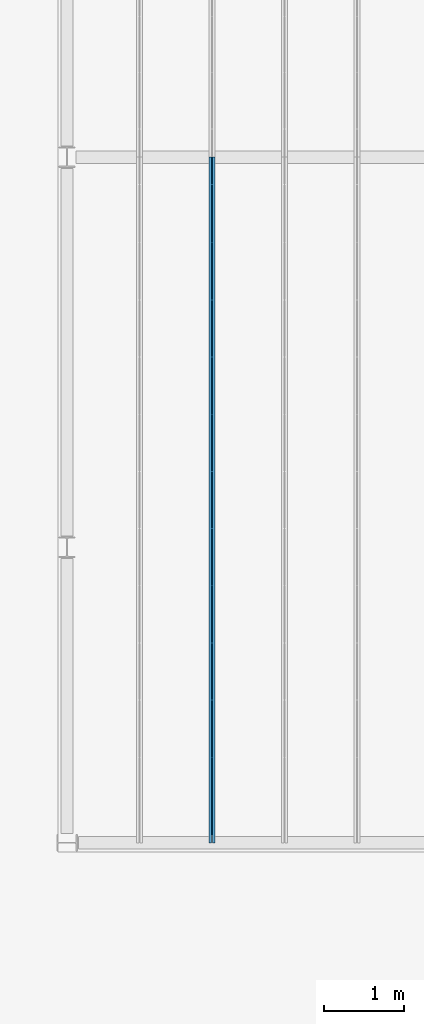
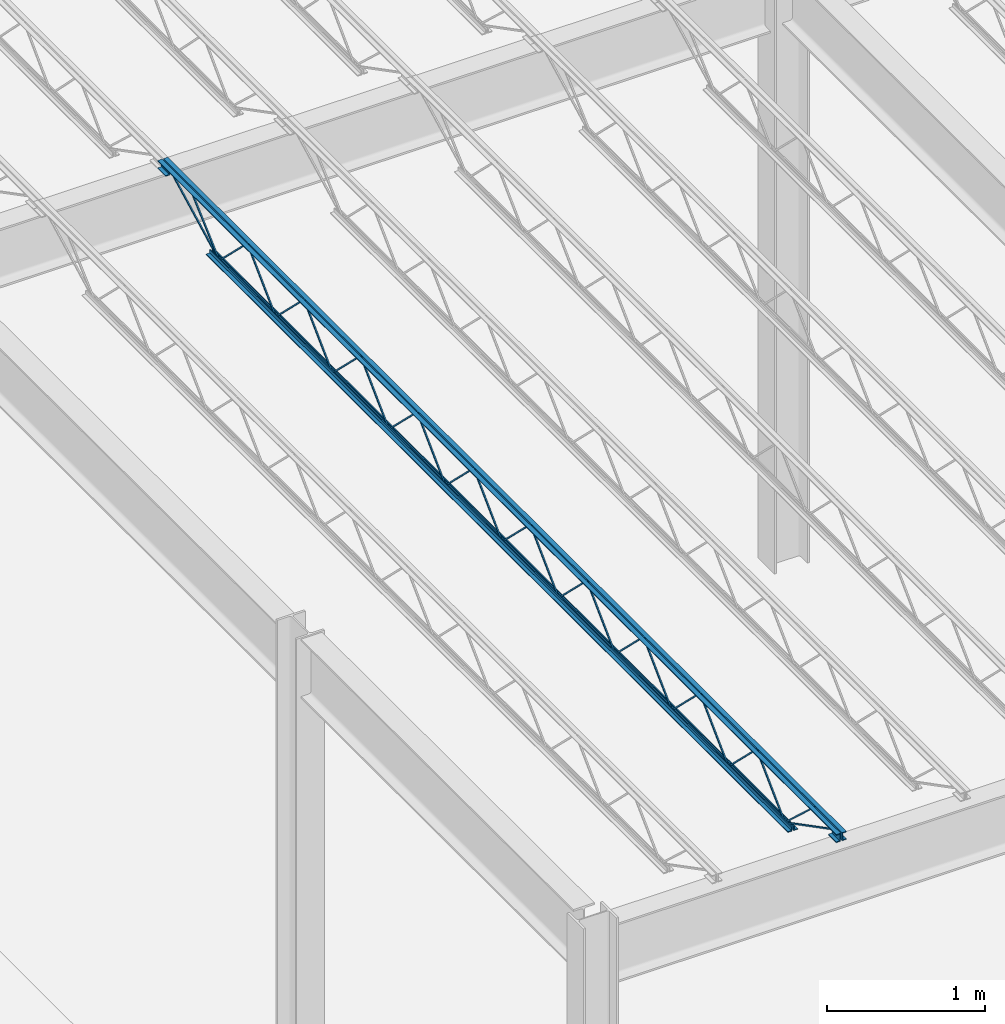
# One storey, part 21 of 119: 1 beam.
"""IFC2X3 building model written with IfcOpenShell, lengths in metres."""

from ifc_helpers import new_model, entity, si_unit, converted_unit, frame, origin, place, context, project, spatial, face_set, surface_model, element, save


model = new_model("IFC2X3")

# Units and contexts
model_context = context("Model", 3, precision=1e-09, world=origin())
plan_context = context("Plan", 3, precision=1e-09, world=origin())
ifc_project = project(units=[si_unit("LENGTHUNIT", "METRE"), si_unit("AREAUNIT", "SQUARE_METRE"), si_unit("VOLUMEUNIT", "CUBIC_METRE"), converted_unit("PLANEANGLEUNIT", "DEGREE", entity("IfcRatioMeasure", 0.01745329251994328), si_unit("PLANEANGLEUNIT", "RADIAN"), dimensions=[0, 0, 0, 0, 0, 0, 0]), si_unit("TIMEUNIT", "SECOND")], contexts=[model_context, plan_context])

# Site, building, storey
site_placement = place(None, origin())
site = spatial("IfcSite", under=ifc_project, at=site_placement, Name="Default", CompositionType="ELEMENT")
building_placement = place(site_placement, origin())
building = spatial("IfcBuilding", under=site, at=building_placement, CompositionType="ELEMENT")
storey_placement = place(building_placement, frame((0.0, 0.0, 4.570000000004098)))
storey = spatial("IfcBuildingStorey", under=building, at=storey_placement, Name="Second Floor", CompositionType="ELEMENT", Elevation=4.570000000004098)

# Beam
beam_placement = place(storey_placement, frame((-45.22532142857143, 10.04000000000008, 4.323999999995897), z_axis=(0.0, 0.0, 1.0), x_axis=(-1.0, 0.0, 0.0)))
element("IfcBeam", 1, at=beam_placement, inside=storey, Name="M_K-Series Bar Joist-Rod Web:14K1:14K1", ObjectType="M_K-Series Bar Joist-Rod Web:14K1", context=model_context, shape_type="SurfaceModel", body=[
    surface_model("IfcFaceBasedSurfaceModel", [(-0.03199999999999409, -2.141200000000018, 0.01110000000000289), (-0.04150000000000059, -2.141200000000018, 0.01110000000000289), (-0.04150000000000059, -2.141200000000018, 0.001600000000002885), (-0.03199999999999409, -2.141200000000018, 0.001600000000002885), (-0.04149999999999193, -2.13996192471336, 0.01110000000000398), (-0.03199999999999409, -2.13996192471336, 0.01110000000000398), (-0.0415000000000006, -2.136088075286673, 0.001600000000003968), (-0.04150000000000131, -1.785138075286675, 0.3449000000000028), (-0.04150000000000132, -1.782661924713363, 0.3449000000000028), (-0.04150000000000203, -1.431711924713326, 0.001600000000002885), (-0.04150000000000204, -1.42660000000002, 0.001600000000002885), (-0.04150000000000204, -1.426600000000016, 0.01110000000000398), (-0.04150000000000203, -1.427838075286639, 0.01110000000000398), (-0.04150000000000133, -1.778788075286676, 0.3544000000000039), (-0.0415000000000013, -1.789011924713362, 0.3544000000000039), (-0.03200000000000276, -2.136088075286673, 0.001600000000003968), (-0.0319999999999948, -1.785138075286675, 0.3449000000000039), (-0.03199999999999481, -1.782661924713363, 0.3449000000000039), (-0.03199999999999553, -1.431711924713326, 0.001600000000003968), (-0.03199999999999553, -1.426600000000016, 0.001600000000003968), (-0.03199999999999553, -1.42660000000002, 0.01110000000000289), (-0.03199999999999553, -1.427838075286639, 0.01110000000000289), (-0.03199999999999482, -1.778788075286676, 0.3544000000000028), (-0.0319999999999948, -1.789011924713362, 0.3544000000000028), (-0.03200000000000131, -2.855800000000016, 0.01110000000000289), (-0.04150000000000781, -2.855800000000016, 0.01110000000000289), (-0.04150000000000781, -2.855800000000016, 0.001600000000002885), (-0.03200000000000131, -2.855800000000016, 0.001600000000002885), (-0.04149999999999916, -2.854561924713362, 0.01110000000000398), (-0.03200000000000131, -2.854561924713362, 0.01110000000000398), (-0.04150000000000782, -2.850688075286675, 0.001600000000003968), (-0.04150000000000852, -2.499738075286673, 0.3449000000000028), (-0.04150000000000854, -2.497261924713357, 0.3449000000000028), (-0.04150000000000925, -2.14631192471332, 0.001600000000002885), (-0.04150000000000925, -2.141200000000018, 0.01110000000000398), (-0.04150000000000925, -2.142438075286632, 0.01110000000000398), (-0.04150000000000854, -2.49338807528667, 0.3544000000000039), (-0.04150000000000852, -2.50361192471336, 0.3544000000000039), (-0.03200000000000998, -2.850688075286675, 0.001600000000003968), (-0.03200000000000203, -2.499738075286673, 0.3449000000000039), (-0.03200000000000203, -2.497261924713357, 0.3449000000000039), (-0.03200000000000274, -2.14631192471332, 0.001600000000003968), (-0.03200000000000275, -2.141200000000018, 0.001600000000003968), (-0.03199999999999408, -2.142438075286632, 0.01110000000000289), (-0.03200000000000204, -2.49338807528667, 0.3544000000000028), (-0.03200000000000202, -2.50361192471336, 0.3544000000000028), (-0.03199999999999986, -3.570400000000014, 0.01110000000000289), (-0.04150000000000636, -3.570400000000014, 0.01110000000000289), (-0.04150000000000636, -3.570400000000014, 0.001600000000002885), (-0.03199999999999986, -3.570400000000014, 0.001600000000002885), (-0.04149999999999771, -3.569161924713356, 0.01110000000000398), (-0.03199999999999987, -3.569161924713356, 0.01110000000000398), (-0.04150000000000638, -3.565288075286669, 0.001600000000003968), (-0.04150000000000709, -3.21433807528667, 0.3449000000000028), (-0.04150000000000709, -3.211861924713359, 0.3449000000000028), (-0.0415000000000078, -2.860911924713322, 0.001600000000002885), (-0.04150000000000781, -2.855800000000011, 0.001600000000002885), (-0.04150000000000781, -2.855800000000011, 0.01110000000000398), (-0.04150000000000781, -2.857038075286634, 0.01110000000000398), (-0.04150000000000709, -3.207988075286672, 0.3544000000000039), (-0.04150000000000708, -3.218211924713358, 0.3544000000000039), (-0.03200000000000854, -3.565288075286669, 0.001600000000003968), (-0.03200000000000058, -3.21433807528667, 0.3449000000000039), (-0.03200000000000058, -3.211861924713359, 0.3449000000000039), (-0.0320000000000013, -2.860911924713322, 0.001600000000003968), (-0.03200000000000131, -2.855800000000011, 0.001600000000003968), (-0.03200000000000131, -2.855800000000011, 0.01110000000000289), (-0.03200000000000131, -2.857038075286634, 0.01110000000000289), (-0.03200000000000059, -3.207988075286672, 0.3544000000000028), (-0.03200000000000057, -3.218211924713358, 0.3544000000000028), (-0.03199999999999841, -4.285000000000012, 0.01110000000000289), (-0.04150000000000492, -4.285000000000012, 0.01110000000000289), (-0.04150000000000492, -4.285000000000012, 0.001600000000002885), (-0.03199999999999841, -4.285000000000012, 0.001600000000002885), (-0.04149999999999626, -4.283761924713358, 0.01110000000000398), (-0.03199999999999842, -4.283761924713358, 0.01110000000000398), (-0.04150000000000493, -4.279888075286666, 0.001600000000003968), (-0.04150000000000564, -3.928938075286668, 0.3449000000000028), (-0.04150000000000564, -3.926461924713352, 0.3449000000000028), (-0.04150000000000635, -3.575511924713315, 0.001600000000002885), (-0.04150000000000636, -3.570400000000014, 0.01110000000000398), (-0.04150000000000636, -3.571638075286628, 0.01110000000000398), (-0.04150000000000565, -3.922588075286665, 0.3544000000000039), (-0.04150000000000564, -3.932811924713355, 0.3544000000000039), (-0.03200000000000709, -4.279888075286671, 0.001600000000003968), (-0.03199999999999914, -3.928938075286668, 0.3449000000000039), (-0.03199999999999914, -3.926461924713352, 0.3449000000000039), (-0.03199999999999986, -3.575511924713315, 0.001600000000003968), (-0.03199999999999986, -3.570400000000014, 0.001600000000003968), (-0.03199999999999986, -3.571638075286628, 0.01110000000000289), (-0.03199999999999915, -3.922588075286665, 0.3544000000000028), (-0.03199999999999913, -3.932811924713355, 0.3544000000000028), (-0.03199999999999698, -4.999600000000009, 0.01110000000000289), (-0.04150000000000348, -4.999600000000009, 0.01110000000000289), (-0.04150000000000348, -4.999600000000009, 0.001600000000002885), (-0.03199999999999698, -4.999600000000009, 0.001600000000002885), (-0.04149999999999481, -4.998361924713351, 0.01110000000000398), (-0.03199999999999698, -4.998361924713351, 0.01110000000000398), (-0.04150000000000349, -4.994488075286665, 0.001600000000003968), (-0.04150000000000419, -4.643538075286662, 0.3449000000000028), (-0.0415000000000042, -4.641061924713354, 0.3449000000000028), (-0.04150000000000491, -4.290111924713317, 0.001600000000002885), (-0.04150000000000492, -4.285000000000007, 0.001600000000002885), (-0.04150000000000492, -4.285000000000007, 0.01110000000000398), (-0.04150000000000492, -4.28623807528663, 0.01110000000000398), (-0.04150000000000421, -4.637188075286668, 0.3544000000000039), (-0.04150000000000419, -4.647411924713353, 0.3544000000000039), (-0.03200000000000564, -4.994488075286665, 0.001600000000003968), (-0.03199999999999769, -4.643538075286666, 0.3449000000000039), (-0.0319999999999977, -4.641061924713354, 0.3449000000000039), (-0.03199999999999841, -4.290111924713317, 0.001600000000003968), (-0.03199999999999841, -4.285000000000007, 0.001600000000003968), (-0.03199999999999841, -4.285000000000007, 0.01110000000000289), (-0.03199999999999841, -4.28623807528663, 0.01110000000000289), (-0.0319999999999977, -4.637188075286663, 0.3544000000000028), (-0.03199999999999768, -4.647411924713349, 0.3544000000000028), (-0.03199999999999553, -5.714200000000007, 0.01110000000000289), (-0.04150000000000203, -5.714200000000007, 0.01110000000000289), (-0.04150000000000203, -5.714200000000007, 0.001600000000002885), (-0.03199999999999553, -5.714200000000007, 0.001600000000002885), (-0.04149999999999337, -5.712961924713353, 0.01110000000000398), (-0.03199999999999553, -5.712961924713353, 0.01110000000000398), (-0.04150000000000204, -5.709088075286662, 0.001600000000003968), (-0.04150000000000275, -5.358138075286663, 0.3449000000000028), (-0.04150000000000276, -5.355661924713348, 0.3449000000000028), (-0.04150000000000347, -5.004711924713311, 0.001600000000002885), (-0.04150000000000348, -4.999600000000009, 0.01110000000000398), (-0.04150000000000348, -5.000838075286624, 0.01110000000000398), (-0.04150000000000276, -5.351788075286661, 0.3544000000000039), (-0.04150000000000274, -5.362011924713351, 0.3544000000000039), (-0.0320000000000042, -5.709088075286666, 0.001600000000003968), (-0.03199999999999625, -5.358138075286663, 0.3449000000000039), (-0.03199999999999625, -5.355661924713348, 0.3449000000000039), (-0.03199999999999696, -5.004711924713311, 0.001600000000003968), (-0.03199999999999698, -4.999600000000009, 0.001600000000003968), (-0.03199999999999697, -5.000838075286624, 0.01110000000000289), (-0.03199999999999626, -5.351788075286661, 0.3544000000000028), (-0.03199999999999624, -5.362011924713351, 0.3544000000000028), (-0.03200000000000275, -6.428800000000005, 0.01110000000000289), (-0.04150000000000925, -6.428800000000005, 0.01110000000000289), (-0.04150000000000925, -6.428800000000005, 0.001600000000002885), (-0.03200000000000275, -6.428800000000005, 0.001600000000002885), (-0.04150000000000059, -6.427561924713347, 0.01110000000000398), (-0.03200000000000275, -6.427561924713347, 0.01110000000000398), (-0.0415000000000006, -6.42368807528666, 0.001600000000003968), (-0.0415000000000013, -6.072738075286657, 0.3449000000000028), (-0.04150000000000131, -6.070261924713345, 0.3449000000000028), (-0.04150000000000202, -5.719311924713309, 0.001600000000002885), (-0.04150000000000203, -5.714200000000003, 0.001600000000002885), (-0.0415000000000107, -5.714200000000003, 0.01110000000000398), (-0.0415000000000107, -5.715438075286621, 0.01110000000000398), (-0.04150000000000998, -6.066388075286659, 0.3544000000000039), (-0.04150000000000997, -6.076611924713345, 0.3544000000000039), (-0.03200000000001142, -6.42368807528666, 0.001600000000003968), (-0.03200000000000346, -6.072738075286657, 0.3449000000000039), (-0.03200000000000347, -6.070261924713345, 0.3449000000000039), (-0.03200000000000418, -5.719311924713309, 0.001600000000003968), (-0.03200000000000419, -5.714200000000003, 0.001600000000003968), (-0.03199999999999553, -5.714200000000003, 0.01110000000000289), (-0.03199999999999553, -5.715438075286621, 0.01110000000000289), (-0.03199999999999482, -6.066388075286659, 0.3544000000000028), (-0.0319999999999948, -6.076611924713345, 0.3544000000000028), (-0.0320000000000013, -7.143399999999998, 0.01110000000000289), (-0.04150000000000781, -7.143399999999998, 0.01110000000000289), (-0.04150000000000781, -7.143399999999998, 0.001600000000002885), (-0.0320000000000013, -7.143399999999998, 0.001600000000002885), (-0.04149999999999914, -7.142161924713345, 0.01110000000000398), (-0.03200000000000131, -7.142161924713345, 0.01110000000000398), (-0.04150000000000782, -7.138288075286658, 0.001600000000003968), (-0.04150000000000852, -6.78733807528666, 0.3449000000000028), (-0.04150000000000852, -6.784861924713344, 0.3449000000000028), (-0.04150000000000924, -6.433911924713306, 0.001600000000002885), (-0.04150000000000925, -6.428800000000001, 0.001600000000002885), (-0.04150000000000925, -6.428800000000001, 0.01110000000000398), (-0.04150000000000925, -6.430038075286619, 0.01110000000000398), (-0.04150000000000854, -6.780988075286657, 0.3544000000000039), (-0.04150000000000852, -6.791211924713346, 0.3544000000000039), (-0.03200000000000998, -7.138288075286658, 0.001600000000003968), (-0.03200000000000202, -6.78733807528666, 0.3449000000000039), (-0.03200000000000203, -6.784861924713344, 0.3449000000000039), (-0.03200000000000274, -6.433911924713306, 0.001600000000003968), (-0.03200000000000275, -6.428800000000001, 0.001600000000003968), (-0.03200000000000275, -6.428800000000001, 0.01110000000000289), (-0.03200000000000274, -6.430038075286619, 0.01110000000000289), (-0.03200000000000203, -6.780988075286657, 0.3544000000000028), (-0.03200000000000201, -6.791211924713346, 0.3544000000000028), (-0.03199999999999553, -1.42660000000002, 0.01109999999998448), (-0.04150000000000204, -1.42660000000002, 0.01109999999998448), (-0.04150000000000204, -1.42660000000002, 0.001599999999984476), (-0.03199999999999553, -1.42660000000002, 0.001599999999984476), (-0.04149999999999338, -1.425361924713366, 0.01109999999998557), (-0.03199999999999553, -1.425361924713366, 0.01109999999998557), (-0.04149999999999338, -1.421488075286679, 0.001599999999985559), (-0.0414999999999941, -1.070538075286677, 0.3448999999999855), (-0.0414999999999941, -1.068061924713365, 0.3448999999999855), (-0.04149999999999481, -0.7171119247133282, 0.001599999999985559), (-0.04150000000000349, -0.7120000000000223, 0.001599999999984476), (-0.04149999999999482, -0.7120000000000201, 0.01109999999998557), (-0.04149999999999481, -0.713238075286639, 0.01109999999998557), (-0.0414999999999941, -1.064188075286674, 0.3543999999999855), (-0.04149999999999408, -1.074411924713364, 0.3543999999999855), (-0.03199999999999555, -1.421488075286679, 0.001599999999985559), (-0.03199999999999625, -1.070538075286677, 0.3448999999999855), (-0.03199999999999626, -1.068061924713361, 0.3448999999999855), (-0.03199999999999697, -0.7171119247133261, 0.001599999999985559), (-0.03199999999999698, -0.7120000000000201, 0.001599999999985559), (-0.03199999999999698, -0.7120000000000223, 0.01109999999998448), (-0.03199999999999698, -0.7132380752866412, 0.01109999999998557), (-0.03199999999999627, -1.064188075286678, 0.3543999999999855), (-0.03199999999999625, -1.074411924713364, 0.3543999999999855), (-0.03199999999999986, -7.858000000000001, 0.01110000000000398), (-0.04150000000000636, -7.858000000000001, 0.01110000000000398), (-0.04150000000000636, -7.858000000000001, 0.001600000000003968), (-0.03199999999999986, -7.858000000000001, 0.001600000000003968), (-0.0414999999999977, -7.856761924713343, 0.01110000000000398), (-0.03199999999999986, -7.856761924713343, 0.01110000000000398), (-0.04150000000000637, -7.852888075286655, 0.001600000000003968), (-0.04150000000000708, -7.501938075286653, 0.3449000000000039), (-0.04150000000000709, -7.499461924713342, 0.3449000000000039), (-0.04150000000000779, -7.148511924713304, 0.001600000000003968), (-0.04150000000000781, -7.143399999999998, 0.001600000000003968), (-0.04150000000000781, -7.143399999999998, 0.01110000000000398), (-0.0415000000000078, -7.144638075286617, 0.01110000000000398), (-0.04150000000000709, -7.495588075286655, 0.3544000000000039), (-0.04150000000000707, -7.50581192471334, 0.3544000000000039), (-0.03200000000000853, -7.852888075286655, 0.001600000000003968), (-0.03200000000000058, -7.501938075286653, 0.3449000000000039), (-0.03200000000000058, -7.499461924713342, 0.3449000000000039), (-0.03200000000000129, -7.148511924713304, 0.001600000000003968), (-0.0320000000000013, -7.143399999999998, 0.001600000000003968), (-0.0320000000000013, -7.143399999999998, 0.01110000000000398), (-0.0320000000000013, -7.144638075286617, 0.01110000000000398), (-0.03200000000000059, -7.495588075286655, 0.3544000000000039), (-0.03200000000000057, -7.50581192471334, 0.3544000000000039), (-0.04150000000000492, 0.0, 0.3559999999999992), (-0.07350000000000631, 0.0, 0.3559999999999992), (-0.07350000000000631, 0.0, 0.3494999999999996), (-0.04800000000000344, 0.0, 0.3494999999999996), (-0.04800000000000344, 0.0, 0.3239999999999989), (-0.04150000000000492, 0.0, 0.3239999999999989), (-0.03200000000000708, 0.0, 0.3559999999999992), (-0.03200000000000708, 0.0, 0.3239999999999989), (-0.02550000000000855, 0.0, 0.3239999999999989), (-0.02550000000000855, 0.0, 0.3494999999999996), (0.0, 0.0, 0.3494999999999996), (0.0, 0.0, 0.3559999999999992), (-0.04150000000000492, -8.570000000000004, 0.3559999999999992), (-0.07350000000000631, -8.570000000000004, 0.3559999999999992), (-0.07350000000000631, -8.570000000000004, 0.3494999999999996), (-0.04800000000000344, -8.570000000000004, 0.3494999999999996), (-0.04800000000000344, -8.570000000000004, 0.3239999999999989), (-0.04150000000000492, -8.570000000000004, 0.3239999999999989), (-0.03200000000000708, -8.570000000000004, 0.3559999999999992), (-0.03200000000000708, -8.570000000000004, 0.3239999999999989), (-0.02550000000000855, -8.570000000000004, 0.3239999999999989), (-0.02550000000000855, -8.570000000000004, 0.3494999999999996), (0.0, -8.570000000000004, 0.3494999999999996), (0.0, -8.570000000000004, 0.3559999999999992), (-0.03199999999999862, -8.470000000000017, 0.2924999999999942), (0.0, -8.470000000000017, 0.2924999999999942), (0.0, -8.470000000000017, 0.2989999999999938), (-0.0255000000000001, -8.470000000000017, 0.2989999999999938), (-0.0255000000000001, -8.470000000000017, 0.3239999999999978), (-0.03199999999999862, -8.470000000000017, 0.3239999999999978), (-0.07349999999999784, -8.470000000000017, 0.2924999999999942), (-0.04149999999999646, -8.470000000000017, 0.2924999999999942), (-0.04149999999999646, -8.470000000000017, 0.3239999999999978), (-0.04799999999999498, -8.470000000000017, 0.3239999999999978), (-0.04799999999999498, -8.470000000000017, 0.2989999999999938), (-0.07349999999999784, -8.470000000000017, 0.2989999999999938), (-0.03199999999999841, -8.570000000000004, 0.2924999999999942), (0.0, -8.570000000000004, 0.2924999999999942), (0.0, -8.570000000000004, 0.2989999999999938), (-0.02549999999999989, -8.570000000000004, 0.2989999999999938), (-0.02549999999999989, -8.570000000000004, 0.3239999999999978), (-0.03199999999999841, -8.570000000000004, 0.3239999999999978), (-0.07349999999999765, -8.570000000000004, 0.2924999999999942), (-0.04149999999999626, -8.570000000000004, 0.2924999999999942), (-0.04149999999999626, -8.570000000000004, 0.3239999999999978), (-0.04799999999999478, -8.570000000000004, 0.3239999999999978), (-0.04799999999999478, -8.570000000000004, 0.2989999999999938), (-0.07349999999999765, -8.570000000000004, 0.2989999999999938), (-0.04149999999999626, 0.0, 0.2924999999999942), (-0.04149999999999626, 0.0, 0.3239999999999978), (-0.04799999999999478, 0.0, 0.3239999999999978), (-0.04799999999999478, 0.0, 0.2989999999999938), (-0.07349999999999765, 0.0, 0.2989999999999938), (-0.07349999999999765, 0.0, 0.2924999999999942), (-0.03199999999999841, 0.0, 0.2924999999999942), (0.0, 0.0, 0.2924999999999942), (0.0, 0.0, 0.2989999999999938), (-0.02549999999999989, 0.0, 0.2989999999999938), (-0.02549999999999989, 0.0, 0.3239999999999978), (-0.03199999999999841, 0.0, 0.3239999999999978), (-0.04149999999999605, -0.1000000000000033, 0.2924999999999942), (-0.04149999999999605, -0.1000000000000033, 0.3239999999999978), (-0.04799999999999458, -0.1000000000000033, 0.3239999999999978), (-0.04799999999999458, -0.1000000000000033, 0.2989999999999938), (-0.07349999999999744, -0.1000000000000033, 0.2989999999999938), (-0.07349999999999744, -0.1000000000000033, 0.2924999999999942), (-0.03199999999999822, -0.1000000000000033, 0.2924999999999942), (0.0, -0.1000000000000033, 0.2924999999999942), (0.0, -0.1000000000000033, 0.2989999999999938), (-0.02549999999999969, -0.1000000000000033, 0.2989999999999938), (-0.02549999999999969, -0.1000000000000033, 0.3239999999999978), (-0.03199999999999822, -0.1000000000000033, 0.3239999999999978), (-0.04150000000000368, -0.6119999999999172, 0.0), (-0.04150000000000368, -0.6119999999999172, 0.03199999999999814), (-0.0480000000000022, -0.6119999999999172, 0.03199999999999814), (-0.0480000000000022, -0.6119999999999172, 0.006499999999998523), (-0.07350000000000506, -0.6119999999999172, 0.006499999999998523), (-0.07350000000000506, -0.6119999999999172, 0.0), (-0.03200000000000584, -0.6119999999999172, 0.0), (0.0, -0.6119999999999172, 0.0), (0.0, -0.6119999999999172, 0.006499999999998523), (-0.02550000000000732, -0.6119999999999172, 0.006499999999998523), (-0.02550000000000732, -0.6119999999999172, 0.03199999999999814), (-0.03200000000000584, -0.6119999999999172, 0.03199999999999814), (-0.04150000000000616, -7.957999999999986, 0.0), (-0.04150000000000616, -7.957999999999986, 0.03199999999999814), (-0.04800000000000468, -7.957999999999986, 0.03199999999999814), (-0.04800000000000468, -7.957999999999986, 0.006499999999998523), (-0.07350000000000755, -7.957999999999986, 0.006499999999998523), (-0.07350000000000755, -7.957999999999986, 0.0), (-0.03200000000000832, -7.957999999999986, 0.0), (0.0, -7.957999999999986, 0.0), (0.0, -7.957999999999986, 0.006499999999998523), (-0.0255000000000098, -7.957999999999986, 0.006499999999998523), (-0.0255000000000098, -7.957999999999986, 0.03199999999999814), (-0.03200000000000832, -7.957999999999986, 0.03199999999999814), (-0.03199999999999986, -7.855811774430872, 0.01056594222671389), (-0.04150000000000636, -7.855811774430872, 0.01056594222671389), (-0.04150000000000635, -7.86018822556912, 0.002134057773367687), (-0.03199999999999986, -7.86018822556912, 0.00213405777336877), (-0.03199999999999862, -8.468840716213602, 0.3287499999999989), (-0.03199999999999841, -8.570000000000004, 0.3287499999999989), (-0.03199999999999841, -8.569999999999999, 0.3192499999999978), (-0.03199999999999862, -8.471159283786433, 0.3192499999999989), (-0.04149999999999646, -8.471159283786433, 0.3192499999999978), (-0.04150000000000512, -8.468840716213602, 0.3287499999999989), (-0.04150000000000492, -8.569999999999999, 0.3287499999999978), (-0.04150000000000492, -8.570000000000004, 0.3192499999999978), (-0.03199999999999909, -8.235257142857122, 0.3417000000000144), (-0.0415000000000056, -8.235257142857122, 0.3417000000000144), (-0.0415000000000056, -8.235257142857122, 0.3322000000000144), (-0.03199999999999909, -8.235257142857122, 0.3322000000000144), (-0.04149999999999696, -8.220724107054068, 0.3417000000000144), (-0.03199999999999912, -8.220724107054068, 0.3417000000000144), (-0.04150000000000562, -8.224390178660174, 0.3322000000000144), (-0.04150000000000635, -7.861190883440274, 0.002831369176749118), (-0.04150000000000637, -7.854809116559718, 0.009868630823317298), (-0.03200000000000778, -8.224390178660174, 0.3322000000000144), (-0.03199999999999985, -7.861190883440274, 0.002831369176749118), (-0.03199999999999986, -7.854809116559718, 0.009868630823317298), (-0.03199999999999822, -0.0978117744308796, 0.3197840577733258), (-0.03199999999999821, -0.1021882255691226, 0.328215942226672), (-0.04150000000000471, -0.1021882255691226, 0.328215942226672), (-0.04150000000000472, -0.0978117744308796, 0.3197840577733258), (-0.03199999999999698, -0.7098117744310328, 0.002134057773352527), (-0.03199999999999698, -0.7141882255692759, 0.01056594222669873), (-0.04150000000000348, -0.7141882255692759, 0.01056594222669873), (-0.04150000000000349, -0.7098117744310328, 0.002134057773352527), (-0.03199999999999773, -0.3369634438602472, 0.3461600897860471), (-0.03199999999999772, -0.343407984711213, 0.3531399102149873), (-0.04150000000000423, -0.343407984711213, 0.3531399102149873), (-0.04150000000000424, -0.3369634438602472, 0.3461600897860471), (-0.03199999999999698, -0.7087777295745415, 0.00286008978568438), (-0.03199999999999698, -0.7152222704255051, 0.009839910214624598), (-0.04150000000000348, -0.7152222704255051, 0.009839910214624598), (-0.04150000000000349, -0.7087777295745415, 0.00286008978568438)], [face_set([[[0, 1, 2, 3]], [[1, 4, 5, 0]], [[2, 6, 7, 8, 9, 10, 11, 12, 13, 14, 4, 1]], [[3, 2, 6, 15]], [[0, 3, 15, 16, 17, 18, 19, 20, 21, 22, 23, 5]], [[4, 5, 23, 14]], [[15, 16, 7, 6]], [[14, 13, 22, 23]], [[16, 7, 8, 17]], [[13, 12, 21, 22]], [[17, 8, 9, 18]], [[20, 11, 10, 19]], [[12, 11, 20, 21]], [[18, 9, 10, 19]]]), face_set([[[24, 25, 26, 27]], [[25, 28, 29, 24]], [[26, 30, 31, 32, 33, 2, 34, 35, 36, 37, 28, 25]], [[27, 26, 30, 38]], [[24, 27, 38, 39, 40, 41, 42, 0, 43, 44, 45, 29]], [[28, 29, 45, 37]], [[38, 39, 31, 30]], [[37, 36, 44, 45]], [[39, 31, 32, 40]], [[36, 35, 43, 44]], [[40, 32, 33, 41]], [[0, 34, 2, 42]], [[35, 34, 0, 43]], [[41, 33, 2, 42]]]), face_set([[[46, 47, 48, 49]], [[47, 50, 51, 46]], [[48, 52, 53, 54, 55, 56, 57, 58, 59, 60, 50, 47]], [[49, 48, 52, 61]], [[46, 49, 61, 62, 63, 64, 65, 66, 67, 68, 69, 51]], [[50, 51, 69, 60]], [[61, 62, 53, 52]], [[60, 59, 68, 69]], [[62, 53, 54, 63]], [[59, 58, 67, 68]], [[63, 54, 55, 64]], [[66, 57, 56, 65]], [[58, 57, 66, 67]], [[64, 55, 56, 65]]]), face_set([[[70, 71, 72, 73]], [[71, 74, 75, 70]], [[72, 76, 77, 78, 79, 48, 80, 81, 82, 83, 74, 71]], [[73, 72, 76, 84]], [[70, 73, 84, 85, 86, 87, 88, 46, 89, 90, 91, 75]], [[74, 75, 91, 83]], [[84, 85, 77, 76]], [[83, 82, 90, 91]], [[85, 77, 78, 86]], [[82, 81, 89, 90]], [[86, 78, 79, 87]], [[46, 80, 48, 88]], [[81, 80, 46, 89]], [[87, 79, 48, 88]]]), face_set([[[92, 93, 94, 95]], [[93, 96, 97, 92]], [[94, 98, 99, 100, 101, 102, 103, 104, 105, 106, 96, 93]], [[95, 94, 98, 107]], [[92, 95, 107, 108, 109, 110, 111, 112, 113, 114, 115, 97]], [[96, 97, 115, 106]], [[107, 108, 99, 98]], [[106, 105, 114, 115]], [[108, 99, 100, 109]], [[105, 104, 113, 114]], [[109, 100, 101, 110]], [[112, 103, 102, 111]], [[104, 103, 112, 113]], [[110, 101, 102, 111]]]), face_set([[[116, 117, 118, 119]], [[117, 120, 121, 116]], [[118, 122, 123, 124, 125, 94, 126, 127, 128, 129, 120, 117]], [[119, 118, 122, 130]], [[116, 119, 130, 131, 132, 133, 134, 92, 135, 136, 137, 121]], [[120, 121, 137, 129]], [[130, 131, 123, 122]], [[129, 128, 136, 137]], [[131, 123, 124, 132]], [[128, 127, 135, 136]], [[132, 124, 125, 133]], [[92, 126, 94, 134]], [[127, 126, 92, 135]], [[133, 125, 94, 134]]]), face_set([[[138, 139, 140, 141]], [[139, 142, 143, 138]], [[140, 144, 145, 146, 147, 148, 149, 150, 151, 152, 142, 139]], [[141, 140, 144, 153]], [[138, 141, 153, 154, 155, 156, 157, 158, 159, 160, 161, 143]], [[142, 143, 161, 152]], [[153, 154, 145, 144]], [[152, 151, 160, 161]], [[154, 145, 146, 155]], [[151, 150, 159, 160]], [[155, 146, 147, 156]], [[158, 149, 148, 157]], [[150, 149, 158, 159]], [[156, 147, 148, 157]]]), face_set([[[162, 163, 164, 165]], [[163, 166, 167, 162]], [[164, 168, 169, 170, 171, 172, 173, 174, 175, 176, 166, 163]], [[165, 164, 168, 177]], [[162, 165, 177, 178, 179, 180, 181, 182, 183, 184, 185, 167]], [[166, 167, 185, 176]], [[177, 178, 169, 168]], [[176, 175, 184, 185]], [[178, 169, 170, 179]], [[175, 174, 183, 184]], [[179, 170, 171, 180]], [[182, 173, 172, 181]], [[174, 173, 182, 183]], [[180, 171, 172, 181]]]), face_set([[[186, 187, 188, 189]], [[187, 190, 191, 186]], [[188, 192, 193, 194, 195, 196, 197, 198, 199, 200, 190, 187]], [[189, 188, 192, 201]], [[186, 189, 201, 202, 203, 204, 205, 206, 207, 208, 209, 191]], [[190, 191, 209, 200]], [[201, 202, 193, 192]], [[200, 199, 208, 209]], [[202, 193, 194, 203]], [[199, 198, 207, 208]], [[203, 194, 195, 204]], [[206, 197, 196, 205]], [[198, 197, 206, 207]], [[204, 195, 196, 205]]]), face_set([[[210, 211, 212, 213]], [[211, 214, 215, 210]], [[212, 216, 217, 218, 219, 220, 221, 222, 223, 224, 214, 211]], [[213, 212, 216, 225]], [[210, 213, 225, 226, 227, 228, 229, 230, 231, 232, 233, 215]], [[214, 215, 233, 224]], [[225, 226, 217, 216]], [[224, 223, 232, 233]], [[226, 217, 218, 227]], [[223, 222, 231, 232]], [[227, 218, 219, 228]], [[230, 221, 220, 229]], [[222, 221, 230, 231]], [[228, 219, 220, 229]]]), face_set([[[234, 235, 236, 237, 238, 239]], [[240, 241, 242, 243, 244, 245]], [[246, 247, 248, 249, 250, 251]], [[252, 253, 254, 255, 256, 257]], [[239, 234, 246, 251]], [[238, 239, 251, 250]], [[237, 249, 250, 238]], [[236, 237, 249, 248]], [[235, 247, 248, 236]], [[234, 246, 247, 235]], [[245, 257, 252, 240]], [[244, 245, 257, 256]], [[243, 244, 256, 255]], [[242, 243, 255, 254]], [[241, 242, 254, 253]], [[240, 252, 253, 241]]]), face_set([[[258, 259, 260, 261, 262, 263]], [[264, 265, 266, 267, 268, 269]], [[270, 271, 272, 273, 274, 275]], [[276, 277, 278, 279, 280, 281]], [[263, 275, 270, 258]], [[262, 274, 275, 263]], [[261, 262, 274, 273]], [[260, 272, 273, 261]], [[259, 260, 272, 271]], [[258, 259, 271, 270]], [[269, 281, 276, 264]], [[268, 280, 281, 269]], [[267, 279, 280, 268]], [[266, 278, 279, 267]], [[265, 266, 278, 277]], [[264, 265, 277, 276]]]), face_set([[[282, 283, 284, 285, 286, 287]], [[288, 289, 290, 291, 292, 293]], [[294, 295, 296, 297, 298, 299]], [[300, 301, 302, 303, 304, 305]], [[287, 282, 294, 299]], [[286, 298, 299, 287]], [[285, 297, 298, 286]], [[284, 296, 297, 285]], [[283, 295, 296, 284]], [[282, 283, 295, 294]], [[293, 305, 300, 288]], [[292, 304, 305, 293]], [[291, 292, 304, 303]], [[290, 302, 303, 291]], [[289, 290, 302, 301]], [[288, 289, 301, 300]]]), face_set([[[306, 307, 308, 309, 310, 311]], [[312, 313, 314, 315, 316, 317]], [[318, 319, 320, 321, 322, 323]], [[324, 325, 326, 327, 328, 329]], [[311, 306, 318, 323]], [[310, 322, 323, 311]], [[309, 321, 322, 310]], [[308, 320, 321, 309]], [[307, 319, 320, 308]], [[306, 307, 319, 318]], [[317, 329, 324, 312]], [[316, 328, 329, 317]], [[315, 316, 328, 327]], [[314, 326, 327, 315]], [[313, 314, 326, 325]], [[312, 313, 325, 324]]]), face_set([[[330, 331, 332, 333]], [[333, 330, 334, 335, 336, 337]], [[332, 333, 337, 338]], [[331, 339, 340, 341, 338, 332]], [[330, 334, 339, 331]], [[335, 340, 341, 336]], [[338, 337, 336, 341]], [[334, 335, 340, 339]]]), face_set([[[342, 343, 344, 345]], [[343, 346, 347, 342]], [[344, 348, 349, 350, 346, 343]], [[345, 344, 348, 351]], [[342, 345, 351, 352, 353, 347]], [[353, 350, 349, 352]], [[346, 350, 353, 347]], [[351, 348, 349, 352]]]), face_set([[[354, 355, 356, 357]], [[358, 359, 360, 361]], [[357, 354, 358, 361]], [[356, 360, 361, 357]], [[355, 359, 360, 356]], [[354, 355, 359, 358]]]), face_set([[[362, 363, 364, 365]], [[366, 367, 368, 369]], [[365, 369, 366, 362]], [[364, 368, 369, 365]], [[363, 364, 368, 367]], [[362, 363, 367, 366]]])]),
])

save(model, "model.ifc")
